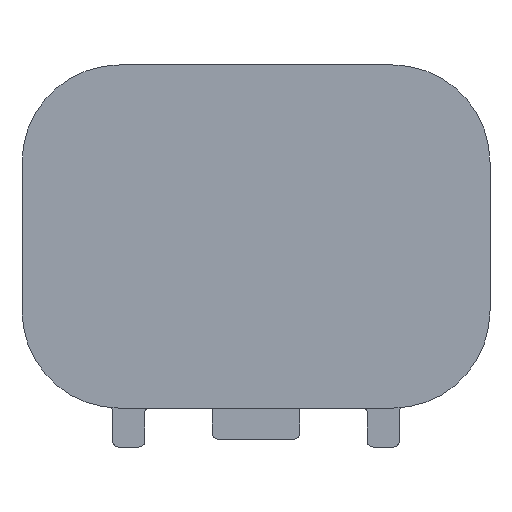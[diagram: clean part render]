
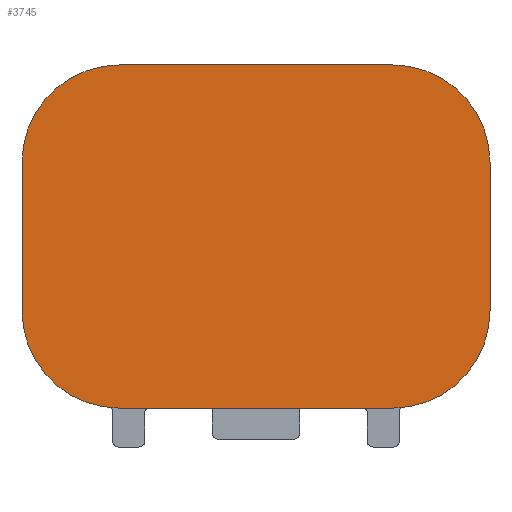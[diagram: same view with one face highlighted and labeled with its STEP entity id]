
A CAD part, front view. The second image highlights one B-rep face of the part: STEP entity #3745.
In plain terms, the highlighted planar face has unit normal (0, -1, 0).
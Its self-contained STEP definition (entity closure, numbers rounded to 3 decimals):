
#3674=CARTESIAN_POINT('Axis2P3D Location',(0.,-1.5,0.)) ;
#3679=CARTESIAN_POINT('Axis2P3D Location',(5.8,-1.5,-3.15)) ;
#3683=CARTESIAN_POINT('Vertex',(5.8,-1.5,-7.281)) ;
#3685=CARTESIAN_POINT('Vertex',(9.931,-1.5,-3.15)) ;
#3688=CARTESIAN_POINT('Line Origine',(9.931,-1.5,0.)) ;
#3692=CARTESIAN_POINT('Vertex',(9.931,-1.5,3.15)) ;
#3695=CARTESIAN_POINT('Axis2P3D Location',(5.8,-1.5,3.15)) ;
#3699=CARTESIAN_POINT('Vertex',(5.8,-1.5,7.281)) ;
#3702=CARTESIAN_POINT('Line Origine',(0.,-1.5,7.281)) ;
#3706=CARTESIAN_POINT('Vertex',(-5.8,-1.5,7.281)) ;
#3709=CARTESIAN_POINT('Axis2P3D Location',(-5.8,-1.5,3.15)) ;
#3713=CARTESIAN_POINT('Vertex',(-9.931,-1.5,3.15)) ;
#3716=CARTESIAN_POINT('Line Origine',(-9.931,-1.5,0.)) ;
#3720=CARTESIAN_POINT('Vertex',(-9.931,-1.5,-3.15)) ;
#3723=CARTESIAN_POINT('Axis2P3D Location',(-5.8,-1.5,-3.15)) ;
#3727=CARTESIAN_POINT('Vertex',(-5.8,-1.5,-7.281)) ;
#3730=CARTESIAN_POINT('Line Origine',(0.,-1.5,-7.281)) ;
#3690=VECTOR('Line Direction',#3689,1.) ;
#3704=VECTOR('Line Direction',#3703,1.) ;
#3718=VECTOR('Line Direction',#3717,1.) ;
#3732=VECTOR('Line Direction',#3731,1.) ;
#3675=DIRECTION('Axis2P3D Direction',(0.,1.,0.)) ;
#3676=DIRECTION('Axis2P3D XDirection',(0.,0.,1.)) ;
#3680=DIRECTION('Axis2P3D Direction',(0.,1.,0.)) ;
#3689=DIRECTION('Vector Direction',(0.,0.,1.)) ;
#3696=DIRECTION('Axis2P3D Direction',(0.,1.,0.)) ;
#3703=DIRECTION('Vector Direction',(-1.,0.,0.)) ;
#3710=DIRECTION('Axis2P3D Direction',(0.,1.,0.)) ;
#3717=DIRECTION('Vector Direction',(0.,0.,1.)) ;
#3724=DIRECTION('Axis2P3D Direction',(0.,1.,0.)) ;
#3731=DIRECTION('Vector Direction',(1.,0.,0.)) ;
#3677=AXIS2_PLACEMENT_3D('Plane Axis2P3D',#3674,#3675,#3676) ;
#3681=AXIS2_PLACEMENT_3D('Circle Axis2P3D',#3679,#3680,$) ;
#3697=AXIS2_PLACEMENT_3D('Circle Axis2P3D',#3695,#3696,$) ;
#3711=AXIS2_PLACEMENT_3D('Circle Axis2P3D',#3709,#3710,$) ;
#3725=AXIS2_PLACEMENT_3D('Circle Axis2P3D',#3723,#3724,$) ;
#3691=LINE('Line',#3688,#3690) ;
#3705=LINE('Line',#3702,#3704) ;
#3719=LINE('Line',#3716,#3718) ;
#3733=LINE('Line',#3730,#3732) ;
#3682=CIRCLE('generated circle',#3681,4.131) ;
#3698=CIRCLE('generated circle',#3697,4.131) ;
#3712=CIRCLE('generated circle',#3711,4.131) ;
#3726=CIRCLE('generated circle',#3725,4.131) ;
#3678=PLANE('',#3677) ;
#3687=EDGE_CURVE('',#3684,#3686,#3682,.F.) ;
#3694=EDGE_CURVE('',#3686,#3693,#3691,.T.) ;
#3701=EDGE_CURVE('',#3693,#3700,#3698,.F.) ;
#3708=EDGE_CURVE('',#3700,#3707,#3705,.T.) ;
#3715=EDGE_CURVE('',#3707,#3714,#3712,.F.) ;
#3722=EDGE_CURVE('',#3714,#3721,#3719,.F.) ;
#3729=EDGE_CURVE('',#3721,#3728,#3726,.F.) ;
#3734=EDGE_CURVE('',#3728,#3684,#3733,.T.) ;
#3736=ORIENTED_EDGE('',*,*,#3687,.T.) ;
#3737=ORIENTED_EDGE('',*,*,#3694,.T.) ;
#3738=ORIENTED_EDGE('',*,*,#3701,.T.) ;
#3739=ORIENTED_EDGE('',*,*,#3708,.T.) ;
#3740=ORIENTED_EDGE('',*,*,#3715,.T.) ;
#3741=ORIENTED_EDGE('',*,*,#3722,.T.) ;
#3742=ORIENTED_EDGE('',*,*,#3729,.T.) ;
#3743=ORIENTED_EDGE('',*,*,#3734,.T.) ;
#3735=EDGE_LOOP('',(#3736,#3737,#3738,#3739,#3740,#3741,#3742,#3743)) ;
#3684=VERTEX_POINT('',#3683) ;
#3686=VERTEX_POINT('',#3685) ;
#3693=VERTEX_POINT('',#3692) ;
#3700=VERTEX_POINT('',#3699) ;
#3707=VERTEX_POINT('',#3706) ;
#3714=VERTEX_POINT('',#3713) ;
#3721=VERTEX_POINT('',#3720) ;
#3728=VERTEX_POINT('',#3727) ;
#3745=ADVANCED_FACE('6P LP INTEFACE - KEY A',(#3744),#3678,.F.) ;
#3744=FACE_OUTER_BOUND('',#3735,.T.) ;
